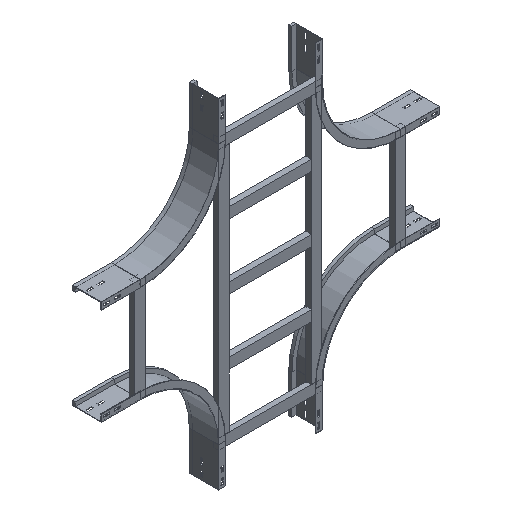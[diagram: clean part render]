
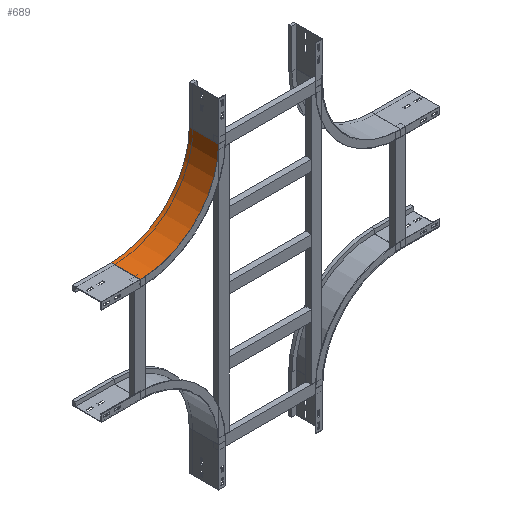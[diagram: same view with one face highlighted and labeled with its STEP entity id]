
A CAD part, isometric view. The second image highlights one B-rep face of the part: STEP entity #689.
In plain terms, the highlighted cylindrical face has radius 300 mm (diameter 600 mm), a partial arc.
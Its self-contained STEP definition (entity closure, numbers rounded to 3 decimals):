
#78 = CIRCLE ( 'NONE', #721, 300. ) ;
#167 = EDGE_CURVE ( 'NONE', #1102, #2227, #78, .T. ) ;
#177 = CARTESIAN_POINT ( 'NONE',  ( 300., 0., -450. ) ) ;
#205 = CYLINDRICAL_SURFACE ( 'NONE', #754, 300. ) ;
#375 = EDGE_CURVE ( 'NONE', #1102, #1568, #2371, .T. ) ;
#388 = DIRECTION ( 'NONE',  ( 0., 0., -1. ) ) ;
#545 = EDGE_LOOP ( 'NONE', ( #1762, #586, #1693, #2168 ) ) ;
#586 = ORIENTED_EDGE ( 'NONE', *, *, #375, .F. ) ;
#689 = ADVANCED_FACE ( 'NONE', ( #2354 ), #205, .F. ) ;
#711 = CIRCLE ( 'NONE', #2109, 300. ) ;
#721 = AXIS2_PLACEMENT_3D ( 'NONE', #1321, #1694, #929 ) ;
#729 = EDGE_CURVE ( 'NONE', #1568, #1944, #711, .T. ) ;
#754 = AXIS2_PLACEMENT_3D ( 'NONE', #1719, #1733, #388 ) ;
#929 = DIRECTION ( 'NONE',  ( -1., 0., 0. ) ) ;
#959 = DIRECTION ( 'NONE',  ( 0., 1., 0. ) ) ;
#1102 = VERTEX_POINT ( 'NONE', #2335 ) ;
#1106 = EDGE_CURVE ( 'NONE', #2227, #1944, #1376, .T. ) ;
#1119 = CARTESIAN_POINT ( 'NONE',  ( 300., 112.5, -450. ) ) ;
#1162 = CARTESIAN_POINT ( 'NONE',  ( 300., 112.5, -150. ) ) ;
#1202 = DIRECTION ( 'NONE',  ( 0., -1., 0. ) ) ;
#1223 = CARTESIAN_POINT ( 'NONE',  ( 0., 0., -150. ) ) ;
#1321 = CARTESIAN_POINT ( 'NONE',  ( 300., 0., -150. ) ) ;
#1376 = LINE ( 'NONE', #177, #1633 ) ;
#1568 = VERTEX_POINT ( 'NONE', #1697 ) ;
#1633 = VECTOR ( 'NONE', #959, 1000. ) ;
#1693 = ORIENTED_EDGE ( 'NONE', *, *, #167, .T. ) ;
#1694 = DIRECTION ( 'NONE',  ( 0., -1., 0. ) ) ;
#1697 = CARTESIAN_POINT ( 'NONE',  ( 0., 112.5, -150. ) ) ;
#1707 = VECTOR ( 'NONE', #2399, 1000. ) ;
#1719 = CARTESIAN_POINT ( 'NONE',  ( 300., 0., -150. ) ) ;
#1733 = DIRECTION ( 'NONE',  ( 0., -1., 0. ) ) ;
#1762 = ORIENTED_EDGE ( 'NONE', *, *, #729, .F. ) ;
#1944 = VERTEX_POINT ( 'NONE', #1119 ) ;
#1967 = CARTESIAN_POINT ( 'NONE',  ( 300., 0., -450. ) ) ;
#2109 = AXIS2_PLACEMENT_3D ( 'NONE', #1162, #1202, #2327 ) ;
#2168 = ORIENTED_EDGE ( 'NONE', *, *, #1106, .T. ) ;
#2227 = VERTEX_POINT ( 'NONE', #1967 ) ;
#2327 = DIRECTION ( 'NONE',  ( -1., 0., 0. ) ) ;
#2335 = CARTESIAN_POINT ( 'NONE',  ( 0., 0., -150. ) ) ;
#2354 = FACE_OUTER_BOUND ( 'NONE', #545, .T. ) ;
#2371 = LINE ( 'NONE', #1223, #1707 ) ;
#2399 = DIRECTION ( 'NONE',  ( 0., 1., 0. ) ) ;
